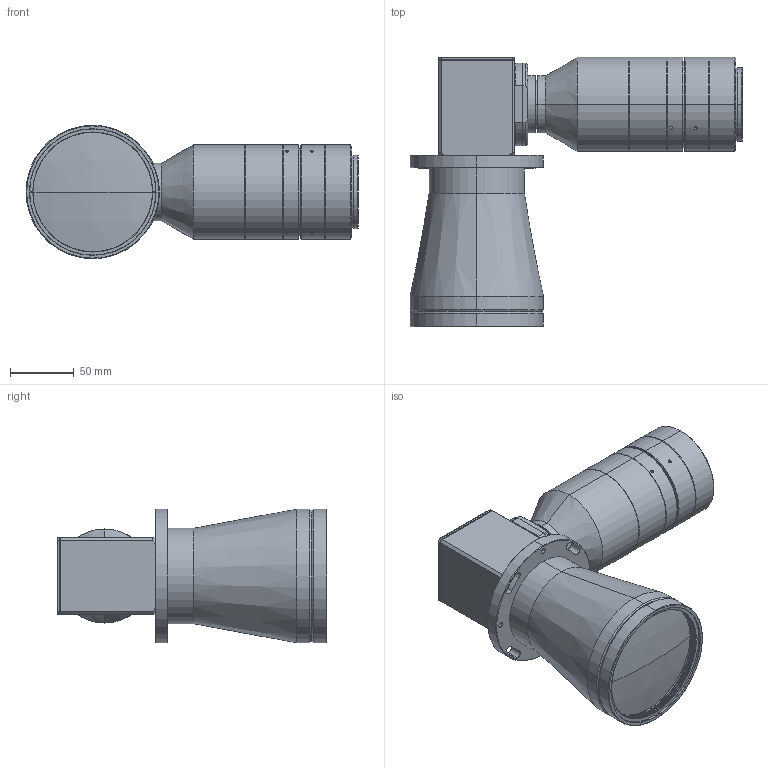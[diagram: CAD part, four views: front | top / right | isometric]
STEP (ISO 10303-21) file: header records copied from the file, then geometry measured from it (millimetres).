
FILE_DESCRIPTION (( 'STEP AP203' ), '1' );
FILE_NAME ('RK-DTC38ML-105-200.STEP', '2026-03-30T12:23:57', ( 'Windows 蚚誧' ), ( 'Organization' ), 'SwSTEP 2.0', 'SolidWorks 2018', '' );
FILE_SCHEMA (( 'CONFIG_CONTROL_DESIGN' ));
Length unit declared in the file: millimetre
Products named in the file (1): RK-DTC38ML-105-200
Bounding box: 261.17 x 212.2 x 105 mm (x, y, z)
Volume: 691050.4 mm3; surface area: 304026.6 mm2
Topology: 13 solids, 13 shells, 864 faces, 1887 edges, 1146 vertices
Faces by surface type: cone 406, cylinder 280, plane 172, sphere 4, torus 2
Entity records: 24416 total; most frequent: CARTESIAN_POINT 4718, DIRECTION 4527, ORIENTED_EDGE 3710, AXIS2_PLACEMENT_3D 1901, EDGE_CURVE 1855, VERTEX_POINT 1146, EDGE_LOOP 1073, CIRCLE 1036
